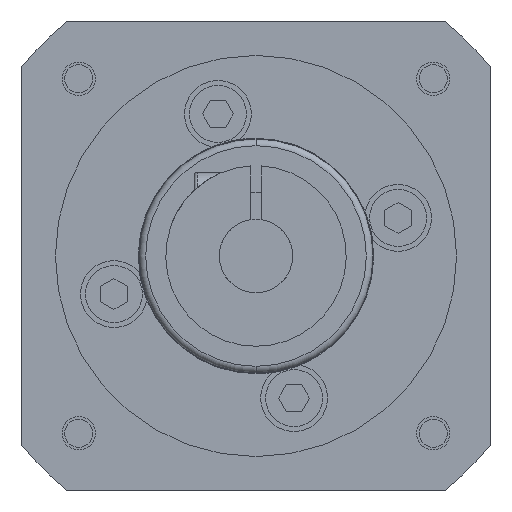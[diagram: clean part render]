
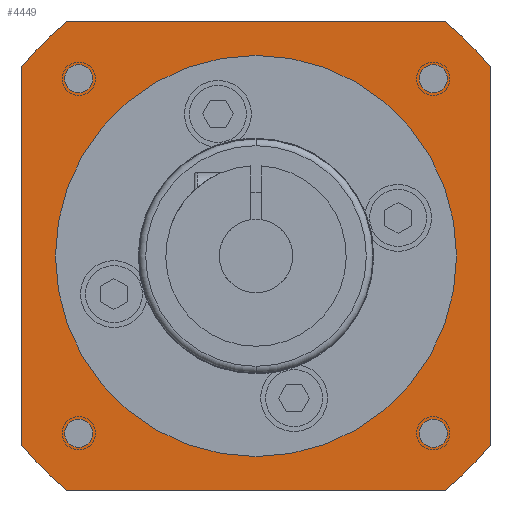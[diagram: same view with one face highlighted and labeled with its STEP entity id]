
A CAD part, left-side view. The second image highlights one B-rep face of the part: STEP entity #4449.
In plain terms, the highlighted planar face has unit normal (-1, 0, 0).
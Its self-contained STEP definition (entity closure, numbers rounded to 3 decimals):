
#851=CARTESIAN_POINT('',(-92.5,0.,0.));
#852=DIRECTION('',(-1.,0.,0.));
#853=DIRECTION('',(0.,-0.629,-0.778));
#854=AXIS2_PLACEMENT_3D('',#851,#852,#853);
#856=DIRECTION('',(0.,-1.,0.));
#857=VECTOR('',#856,56.569);
#858=CARTESIAN_POINT('',(-92.5,28.284,-35.));
#859=LINE('',#858,#857);
#860=CARTESIAN_POINT('',(-92.5,0.,0.));
#861=DIRECTION('',(-1.,0.,0.));
#862=DIRECTION('',(0.,0.778,-0.629));
#863=AXIS2_PLACEMENT_3D('',#860,#861,#862);
#865=DIRECTION('',(0.,0.,-1.));
#866=VECTOR('',#865,56.569);
#867=CARTESIAN_POINT('',(-92.5,35.,28.284));
#868=LINE('',#867,#866);
#869=CARTESIAN_POINT('',(-92.5,0.,0.));
#870=DIRECTION('',(-1.,0.,0.));
#871=DIRECTION('',(0.,0.629,0.778));
#872=AXIS2_PLACEMENT_3D('',#869,#870,#871);
#874=DIRECTION('',(0.,1.,0.));
#875=VECTOR('',#874,56.569);
#876=CARTESIAN_POINT('',(-92.5,-28.284,35.));
#877=LINE('',#876,#875);
#878=CARTESIAN_POINT('',(-92.5,0.,0.));
#879=DIRECTION('',(-1.,0.,0.));
#880=DIRECTION('',(0.,-0.778,0.629));
#881=AXIS2_PLACEMENT_3D('',#878,#879,#880);
#883=DIRECTION('',(0.,0.,1.));
#884=VECTOR('',#883,56.569);
#885=CARTESIAN_POINT('',(-92.5,-35.,-28.284));
#886=LINE('',#885,#884);
#887=CARTESIAN_POINT('',(-92.5,-26.517,-26.517));
#888=DIRECTION('',(-1.,0.,0.));
#889=DIRECTION('',(0.,1.,0.));
#890=AXIS2_PLACEMENT_3D('',#887,#888,#889);
#892=CARTESIAN_POINT('',(-92.5,-26.517,-26.517));
#893=DIRECTION('',(-1.,0.,0.));
#894=DIRECTION('',(0.,-1.,0.));
#895=AXIS2_PLACEMENT_3D('',#892,#893,#894);
#897=CARTESIAN_POINT('',(-92.5,26.517,-26.517));
#898=DIRECTION('',(-1.,0.,0.));
#899=DIRECTION('',(0.,1.,0.));
#900=AXIS2_PLACEMENT_3D('',#897,#898,#899);
#902=CARTESIAN_POINT('',(-92.5,26.517,-26.517));
#903=DIRECTION('',(-1.,0.,0.));
#904=DIRECTION('',(0.,-1.,0.));
#905=AXIS2_PLACEMENT_3D('',#902,#903,#904);
#907=CARTESIAN_POINT('',(-92.5,26.517,26.517));
#908=DIRECTION('',(-1.,0.,0.));
#909=DIRECTION('',(0.,1.,0.));
#910=AXIS2_PLACEMENT_3D('',#907,#908,#909);
#912=CARTESIAN_POINT('',(-92.5,26.517,26.517));
#913=DIRECTION('',(-1.,0.,0.));
#914=DIRECTION('',(0.,-1.,0.));
#915=AXIS2_PLACEMENT_3D('',#912,#913,#914);
#917=CARTESIAN_POINT('',(-92.5,-26.517,26.517));
#918=DIRECTION('',(-1.,0.,0.));
#919=DIRECTION('',(0.,1.,0.));
#920=AXIS2_PLACEMENT_3D('',#917,#918,#919);
#922=CARTESIAN_POINT('',(-92.5,-26.517,26.517));
#923=DIRECTION('',(-1.,0.,0.));
#924=DIRECTION('',(0.,-1.,0.));
#925=AXIS2_PLACEMENT_3D('',#922,#923,#924);
#927=CARTESIAN_POINT('',(-92.5,0.,0.));
#928=DIRECTION('',(1.,0.,0.));
#929=DIRECTION('',(0.,0.,-1.));
#930=AXIS2_PLACEMENT_3D('',#927,#928,#929);
#940=CARTESIAN_POINT('',(-92.5,0.,0.));
#941=DIRECTION('',(-1.,0.,0.));
#942=DIRECTION('',(0.,0.,-1.));
#943=AXIS2_PLACEMENT_3D('',#940,#941,#942);
#2729=CARTESIAN_POINT('',(-92.5,-28.284,-35.));
#2730=CARTESIAN_POINT('',(-92.5,-35.,-28.284));
#2731=VERTEX_POINT('',#2729);
#2732=VERTEX_POINT('',#2730);
#2733=CARTESIAN_POINT('',(-92.5,-35.,28.284));
#2734=VERTEX_POINT('',#2733);
#2735=CARTESIAN_POINT('',(-92.5,-28.284,35.));
#2736=VERTEX_POINT('',#2735);
#2737=CARTESIAN_POINT('',(-92.5,28.284,35.));
#2738=VERTEX_POINT('',#2737);
#2739=CARTESIAN_POINT('',(-92.5,35.,28.284));
#2740=VERTEX_POINT('',#2739);
#2741=CARTESIAN_POINT('',(-92.5,35.,-28.284));
#2742=VERTEX_POINT('',#2741);
#2743=CARTESIAN_POINT('',(-92.5,28.284,-35.));
#2744=VERTEX_POINT('',#2743);
#2793=CARTESIAN_POINT('',(-92.5,-24.417,-26.517));
#2794=VERTEX_POINT('',#2793);
#2795=CARTESIAN_POINT('',(-92.5,-28.617,-26.517));
#2796=VERTEX_POINT('',#2795);
#2797=CARTESIAN_POINT('',(-92.5,28.617,-26.517));
#2798=VERTEX_POINT('',#2797);
#2799=CARTESIAN_POINT('',(-92.5,24.417,-26.517));
#2800=VERTEX_POINT('',#2799);
#2801=CARTESIAN_POINT('',(-92.5,28.617,26.517));
#2802=VERTEX_POINT('',#2801);
#2803=CARTESIAN_POINT('',(-92.5,24.417,26.517));
#2804=VERTEX_POINT('',#2803);
#2805=CARTESIAN_POINT('',(-92.5,-24.417,26.517));
#2806=VERTEX_POINT('',#2805);
#2807=CARTESIAN_POINT('',(-92.5,-28.617,26.517));
#2808=VERTEX_POINT('',#2807);
#2989=CARTESIAN_POINT('',(-92.5,0.,-30.));
#2991=VERTEX_POINT('',#2989);
#2997=CARTESIAN_POINT('',(-92.5,0.,30.));
#2999=VERTEX_POINT('',#2997);
#4404=CARTESIAN_POINT('',(-92.5,0.,0.));
#4405=DIRECTION('',(1.,0.,0.));
#4406=DIRECTION('',(0.,0.,1.));
#4407=AXIS2_PLACEMENT_3D('',#4404,#4405,#4406);
#4408=PLANE('',#4407);
#4409=ORIENTED_EDGE('',*,*,#4294,.F.);
#4410=ORIENTED_EDGE('',*,*,#4309,.F.);
#4411=ORIENTED_EDGE('',*,*,#4323,.F.);
#4412=ORIENTED_EDGE('',*,*,#4337,.F.);
#4413=ORIENTED_EDGE('',*,*,#4357,.F.);
#4414=ORIENTED_EDGE('',*,*,#4371,.F.);
#4415=ORIENTED_EDGE('',*,*,#4385,.F.);
#4416=ORIENTED_EDGE('',*,*,#4398,.F.);
#4417=EDGE_LOOP('',(#4409,#4410,#4411,#4412,#4413,#4414,#4415,#4416));
#4418=FACE_OUTER_BOUND('',#4417,.F.);
#4420=ORIENTED_EDGE('',*,*,#4419,.F.);
#4422=ORIENTED_EDGE('',*,*,#4421,.T.);
#4423=EDGE_LOOP('',(#4420,#4422));
#4424=FACE_BOUND('',#4423,.F.);
#4426=ORIENTED_EDGE('',*,*,#4425,.T.);
#4428=ORIENTED_EDGE('',*,*,#4427,.T.);
#4429=EDGE_LOOP('',(#4426,#4428));
#4430=FACE_BOUND('',#4429,.F.);
#4432=ORIENTED_EDGE('',*,*,#4431,.T.);
#4434=ORIENTED_EDGE('',*,*,#4433,.T.);
#4435=EDGE_LOOP('',(#4432,#4434));
#4436=FACE_BOUND('',#4435,.F.);
#4438=ORIENTED_EDGE('',*,*,#4437,.T.);
#4440=ORIENTED_EDGE('',*,*,#4439,.T.);
#4441=EDGE_LOOP('',(#4438,#4440));
#4442=FACE_BOUND('',#4441,.F.);
#4444=ORIENTED_EDGE('',*,*,#4443,.T.);
#4446=ORIENTED_EDGE('',*,*,#4445,.T.);
#4447=EDGE_LOOP('',(#4444,#4446));
#4448=FACE_BOUND('',#4447,.F.);
#855=CIRCLE('',#854,45.);
#864=CIRCLE('',#863,45.);
#873=CIRCLE('',#872,45.);
#882=CIRCLE('',#881,45.);
#891=CIRCLE('',#890,2.1);
#896=CIRCLE('',#895,2.1);
#901=CIRCLE('',#900,2.1);
#906=CIRCLE('',#905,2.1);
#911=CIRCLE('',#910,2.1);
#916=CIRCLE('',#915,2.1);
#921=CIRCLE('',#920,2.1);
#926=CIRCLE('',#925,2.1);
#931=CIRCLE('',#930,30.);
#944=CIRCLE('',#943,30.);
#4294=EDGE_CURVE('',#2731,#2732,#855,.T.);
#4309=EDGE_CURVE('',#2744,#2731,#859,.T.);
#4323=EDGE_CURVE('',#2742,#2744,#864,.T.);
#4337=EDGE_CURVE('',#2740,#2742,#868,.T.);
#4357=EDGE_CURVE('',#2738,#2740,#873,.T.);
#4371=EDGE_CURVE('',#2736,#2738,#877,.T.);
#4385=EDGE_CURVE('',#2734,#2736,#882,.T.);
#4398=EDGE_CURVE('',#2732,#2734,#886,.T.);
#4419=EDGE_CURVE('',#2991,#2999,#931,.T.);
#4421=EDGE_CURVE('',#2991,#2999,#944,.T.);
#4425=EDGE_CURVE('',#2794,#2796,#891,.T.);
#4427=EDGE_CURVE('',#2796,#2794,#896,.T.);
#4431=EDGE_CURVE('',#2798,#2800,#901,.T.);
#4433=EDGE_CURVE('',#2800,#2798,#906,.T.);
#4437=EDGE_CURVE('',#2802,#2804,#911,.T.);
#4439=EDGE_CURVE('',#2804,#2802,#916,.T.);
#4443=EDGE_CURVE('',#2806,#2808,#921,.T.);
#4445=EDGE_CURVE('',#2808,#2806,#926,.T.);
#4449=ADVANCED_FACE('',(#4418,#4424,#4430,#4436,#4442,#4448),#4408,.F.);
